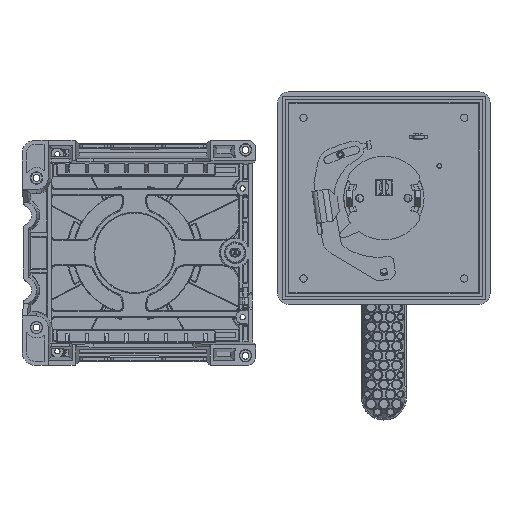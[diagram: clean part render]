
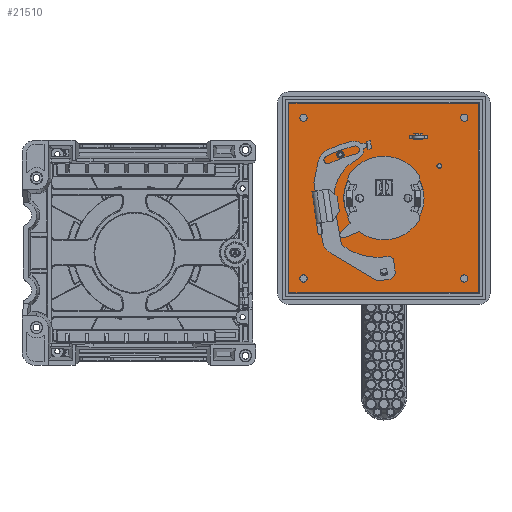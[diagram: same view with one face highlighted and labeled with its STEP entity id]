
A CAD part, front view. The second image highlights one B-rep face of the part: STEP entity #21510.
In plain terms, the highlighted planar face has unit normal (0, -1, 0).
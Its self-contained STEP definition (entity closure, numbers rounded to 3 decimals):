
#12260=LINE('',#104838,#17094);
#12261=LINE('',#104841,#17095);
#12262=LINE('',#104843,#17096);
#12263=LINE('',#104845,#17097);
#12264=LINE('',#104878,#17098);
#12265=LINE('',#104881,#17099);
#12266=LINE('',#104883,#17100);
#12267=LINE('',#104885,#17101);
#12268=LINE('',#104887,#17102);
#12269=LINE('',#104889,#17103);
#12270=LINE('',#104891,#17104);
#12271=LINE('',#104893,#17105);
#12272=LINE('',#104895,#17106);
#12273=LINE('',#104897,#17107);
#12274=LINE('',#104899,#17108);
#12275=LINE('',#104901,#17109);
#17094=VECTOR('',#80921,1.);
#17095=VECTOR('',#80922,1.);
#17096=VECTOR('',#80923,1.);
#17097=VECTOR('',#80924,1.);
#17098=VECTOR('',#80957,1.);
#17099=VECTOR('',#80958,1.);
#17100=VECTOR('',#80959,1.);
#17101=VECTOR('',#80960,1.);
#17102=VECTOR('',#80961,1.);
#17103=VECTOR('',#80962,1.);
#17104=VECTOR('',#80963,1.);
#17105=VECTOR('',#80964,1.);
#17106=VECTOR('',#80965,1.);
#17107=VECTOR('',#80966,1.);
#17108=VECTOR('',#80967,1.);
#17109=VECTOR('',#80968,1.);
#21510=ADVANCED_FACE('',(#26535,#26536,#26537,#26538,#26539,#26540,#26541,
#26542,#26543,#26544),#25336,.F.);
#25336=PLANE('',#72030);
#26535=FACE_BOUND('',#27420,.T.);
#26536=FACE_BOUND('',#27421,.T.);
#26537=FACE_BOUND('',#27422,.T.);
#26538=FACE_BOUND('',#27423,.T.);
#26539=FACE_BOUND('',#27424,.T.);
#26540=FACE_BOUND('',#27425,.T.);
#26541=FACE_BOUND('',#27426,.T.);
#26542=FACE_BOUND('',#27427,.T.);
#26543=FACE_BOUND('',#27428,.T.);
#26544=FACE_BOUND('',#27429,.T.);
#27420=EDGE_LOOP('',(#33959,#33960,#33961,#33962));
#27421=EDGE_LOOP('',(#33963,#33964));
#27422=EDGE_LOOP('',(#33965,#33966));
#27423=EDGE_LOOP('',(#33967,#33968));
#27424=EDGE_LOOP('',(#33969,#33970));
#27425=EDGE_LOOP('',(#33971,#33972));
#27426=EDGE_LOOP('',(#33973,#33974));
#27427=EDGE_LOOP('',(#33975,#33976));
#27428=EDGE_LOOP('',(#33977,#33978));
#27429=EDGE_LOOP('',(#33979,#33980,#33981,#33982,#33983,#33984,#33985,#33986,
#33987,#33988,#33989,#33990));
#33959=ORIENTED_EDGE('',*,*,#59092,.F.);
#33960=ORIENTED_EDGE('',*,*,#59093,.F.);
#33961=ORIENTED_EDGE('',*,*,#59094,.F.);
#33962=ORIENTED_EDGE('',*,*,#59095,.F.);
#33963=ORIENTED_EDGE('',*,*,#59096,.F.);
#33964=ORIENTED_EDGE('',*,*,#59097,.F.);
#33965=ORIENTED_EDGE('',*,*,#59098,.F.);
#33966=ORIENTED_EDGE('',*,*,#59099,.F.);
#33967=ORIENTED_EDGE('',*,*,#59100,.F.);
#33968=ORIENTED_EDGE('',*,*,#59101,.F.);
#33969=ORIENTED_EDGE('',*,*,#59102,.F.);
#33970=ORIENTED_EDGE('',*,*,#59103,.F.);
#33971=ORIENTED_EDGE('',*,*,#59104,.F.);
#33972=ORIENTED_EDGE('',*,*,#59105,.F.);
#33973=ORIENTED_EDGE('',*,*,#59106,.F.);
#33974=ORIENTED_EDGE('',*,*,#59107,.F.);
#33975=ORIENTED_EDGE('',*,*,#59108,.F.);
#33976=ORIENTED_EDGE('',*,*,#59109,.F.);
#33977=ORIENTED_EDGE('',*,*,#59110,.F.);
#33978=ORIENTED_EDGE('',*,*,#59111,.F.);
#33979=ORIENTED_EDGE('',*,*,#59112,.T.);
#33980=ORIENTED_EDGE('',*,*,#59113,.T.);
#33981=ORIENTED_EDGE('',*,*,#59114,.F.);
#33982=ORIENTED_EDGE('',*,*,#59115,.T.);
#33983=ORIENTED_EDGE('',*,*,#59116,.T.);
#33984=ORIENTED_EDGE('',*,*,#59117,.F.);
#33985=ORIENTED_EDGE('',*,*,#59118,.F.);
#33986=ORIENTED_EDGE('',*,*,#59119,.T.);
#33987=ORIENTED_EDGE('',*,*,#59120,.F.);
#33988=ORIENTED_EDGE('',*,*,#59121,.T.);
#33989=ORIENTED_EDGE('',*,*,#59122,.F.);
#33990=ORIENTED_EDGE('',*,*,#59123,.T.);
#52396=VERTEX_POINT('',#104839);
#52397=VERTEX_POINT('',#104840);
#52398=VERTEX_POINT('',#104842);
#52399=VERTEX_POINT('',#104844);
#52400=VERTEX_POINT('',#104847);
#52401=VERTEX_POINT('',#104848);
#52402=VERTEX_POINT('',#104851);
#52403=VERTEX_POINT('',#104852);
#52404=VERTEX_POINT('',#104855);
#52405=VERTEX_POINT('',#104856);
#52406=VERTEX_POINT('',#104859);
#52407=VERTEX_POINT('',#104860);
#52408=VERTEX_POINT('',#104863);
#52409=VERTEX_POINT('',#104864);
#52410=VERTEX_POINT('',#104867);
#52411=VERTEX_POINT('',#104868);
#52412=VERTEX_POINT('',#104871);
#52413=VERTEX_POINT('',#104872);
#52414=VERTEX_POINT('',#104875);
#52415=VERTEX_POINT('',#104876);
#52416=VERTEX_POINT('',#104879);
#52417=VERTEX_POINT('',#104880);
#52418=VERTEX_POINT('',#104882);
#52419=VERTEX_POINT('',#104884);
#52420=VERTEX_POINT('',#104886);
#52421=VERTEX_POINT('',#104888);
#52422=VERTEX_POINT('',#104890);
#52423=VERTEX_POINT('',#104892);
#52424=VERTEX_POINT('',#104894);
#52425=VERTEX_POINT('',#104896);
#52426=VERTEX_POINT('',#104898);
#52427=VERTEX_POINT('',#104900);
#59092=EDGE_CURVE('',#52396,#52397,#12260,.T.);
#59093=EDGE_CURVE('',#52398,#52396,#12261,.T.);
#59094=EDGE_CURVE('',#52399,#52398,#12262,.T.);
#59095=EDGE_CURVE('',#52397,#52399,#12263,.T.);
#59096=EDGE_CURVE('',#52400,#52401,#68127,.T.);
#59097=EDGE_CURVE('',#52401,#52400,#68128,.T.);
#59098=EDGE_CURVE('',#52402,#52403,#68129,.T.);
#59099=EDGE_CURVE('',#52403,#52402,#68130,.T.);
#59100=EDGE_CURVE('',#52404,#52405,#68131,.T.);
#59101=EDGE_CURVE('',#52405,#52404,#68132,.T.);
#59102=EDGE_CURVE('',#52406,#52407,#68133,.T.);
#59103=EDGE_CURVE('',#52407,#52406,#68134,.T.);
#59104=EDGE_CURVE('',#52408,#52409,#68135,.T.);
#59105=EDGE_CURVE('',#52409,#52408,#68136,.T.);
#59106=EDGE_CURVE('',#52410,#52411,#68137,.T.);
#59107=EDGE_CURVE('',#52411,#52410,#68138,.T.);
#59108=EDGE_CURVE('',#52412,#52413,#68139,.T.);
#59109=EDGE_CURVE('',#52413,#52412,#68140,.T.);
#59110=EDGE_CURVE('',#52414,#52415,#68141,.T.);
#59111=EDGE_CURVE('',#52415,#52414,#68142,.T.);
#59112=EDGE_CURVE('',#52416,#52417,#12264,.T.);
#59113=EDGE_CURVE('',#52417,#52418,#12265,.T.);
#59114=EDGE_CURVE('',#52419,#52418,#12266,.T.);
#59115=EDGE_CURVE('',#52419,#52420,#12267,.T.);
#59116=EDGE_CURVE('',#52420,#52421,#12268,.T.);
#59117=EDGE_CURVE('',#52422,#52421,#12269,.T.);
#59118=EDGE_CURVE('',#52423,#52422,#12270,.T.);
#59119=EDGE_CURVE('',#52423,#52424,#12271,.T.);
#59120=EDGE_CURVE('',#52425,#52424,#12272,.T.);
#59121=EDGE_CURVE('',#52425,#52426,#12273,.T.);
#59122=EDGE_CURVE('',#52427,#52426,#12274,.T.);
#59123=EDGE_CURVE('',#52427,#52416,#12275,.T.);
#68127=CIRCLE('',#72014,25.);
#68128=CIRCLE('',#72015,25.);
#68129=CIRCLE('',#72016,2.25);
#68130=CIRCLE('',#72017,2.25);
#68131=CIRCLE('',#72018,2.25);
#68132=CIRCLE('',#72019,2.25);
#68133=CIRCLE('',#72020,2.25);
#68134=CIRCLE('',#72021,2.25);
#68135=CIRCLE('',#72022,2.25);
#68136=CIRCLE('',#72023,2.25);
#68137=CIRCLE('',#72024,3.);
#68138=CIRCLE('',#72025,3.);
#68139=CIRCLE('',#72026,1.5);
#68140=CIRCLE('',#72027,1.5);
#68141=CIRCLE('',#72028,1.5);
#68142=CIRCLE('',#72029,1.5);
#72014=AXIS2_PLACEMENT_3D('',#104846,#80925,#80926);
#72015=AXIS2_PLACEMENT_3D('',#104849,#80927,#80928);
#72016=AXIS2_PLACEMENT_3D('',#104850,#80929,#80930);
#72017=AXIS2_PLACEMENT_3D('',#104853,#80931,#80932);
#72018=AXIS2_PLACEMENT_3D('',#104854,#80933,#80934);
#72019=AXIS2_PLACEMENT_3D('',#104857,#80935,#80936);
#72020=AXIS2_PLACEMENT_3D('',#104858,#80937,#80938);
#72021=AXIS2_PLACEMENT_3D('',#104861,#80939,#80940);
#72022=AXIS2_PLACEMENT_3D('',#104862,#80941,#80942);
#72023=AXIS2_PLACEMENT_3D('',#104865,#80943,#80944);
#72024=AXIS2_PLACEMENT_3D('',#104866,#80945,#80946);
#72025=AXIS2_PLACEMENT_3D('',#104869,#80947,#80948);
#72026=AXIS2_PLACEMENT_3D('',#104870,#80949,#80950);
#72027=AXIS2_PLACEMENT_3D('',#104873,#80951,#80952);
#72028=AXIS2_PLACEMENT_3D('',#104874,#80953,#80954);
#72029=AXIS2_PLACEMENT_3D('',#104877,#80955,#80956);
#72030=AXIS2_PLACEMENT_3D('',#104902,#80969,#80970);
#80921=DIRECTION('',(-1.,0.,0.));
#80922=DIRECTION('',(0.,0.,-1.));
#80923=DIRECTION('',(1.,0.,0.));
#80924=DIRECTION('',(0.,0.,1.));
#80925=DIRECTION('',(0.,-1.,0.));
#80926=DIRECTION('',(-1.,0.,0.));
#80927=DIRECTION('',(0.,-1.,0.));
#80928=DIRECTION('',(1.,0.,0.));
#80929=DIRECTION('',(0.,-1.,0.));
#80930=DIRECTION('',(1.,0.,0.));
#80931=DIRECTION('',(0.,-1.,0.));
#80932=DIRECTION('',(-1.,0.,0.));
#80933=DIRECTION('',(0.,-1.,0.));
#80934=DIRECTION('',(-1.,0.,0.));
#80935=DIRECTION('',(0.,-1.,0.));
#80936=DIRECTION('',(1.,0.,0.));
#80937=DIRECTION('',(0.,-1.,0.));
#80938=DIRECTION('',(-1.,0.,0.));
#80939=DIRECTION('',(0.,-1.,0.));
#80940=DIRECTION('',(1.,0.,0.));
#80941=DIRECTION('',(0.,-1.,0.));
#80942=DIRECTION('',(1.,0.,0.));
#80943=DIRECTION('',(0.,-1.,0.));
#80944=DIRECTION('',(-1.,0.,0.));
#80945=DIRECTION('',(0.,-1.,0.));
#80946=DIRECTION('',(-1.,0.,0.));
#80947=DIRECTION('',(0.,-1.,0.));
#80948=DIRECTION('',(1.,0.,0.));
#80949=DIRECTION('',(0.,-1.,0.));
#80950=DIRECTION('',(-1.,0.,0.));
#80951=DIRECTION('',(0.,-1.,0.));
#80952=DIRECTION('',(1.,0.,0.));
#80953=DIRECTION('',(0.,-1.,0.));
#80954=DIRECTION('',(-1.,0.,0.));
#80955=DIRECTION('',(0.,-1.,0.));
#80956=DIRECTION('',(1.,0.,0.));
#80957=DIRECTION('',(0.,0.,1.));
#80958=DIRECTION('',(-1.,0.,0.));
#80959=DIRECTION('',(0.,0.,-1.));
#80960=DIRECTION('',(1.,0.,0.));
#80961=DIRECTION('',(0.,0.,1.));
#80962=DIRECTION('',(-1.,0.,0.));
#80963=DIRECTION('',(0.,0.,1.));
#80964=DIRECTION('',(1.,0.,0.));
#80965=DIRECTION('',(0.,0.,1.));
#80966=DIRECTION('',(-1.,0.,0.));
#80967=DIRECTION('',(0.,0.,1.));
#80968=DIRECTION('',(-1.,0.,0.));
#80969=DIRECTION('',(0.,1.,0.));
#80970=DIRECTION('',(-1.,0.,0.));
#104838=CARTESIAN_POINT('',(59.,0.,-59.));
#104839=CARTESIAN_POINT('',(59.,0.,-59.));
#104840=CARTESIAN_POINT('',(-59.,0.,-59.));
#104841=CARTESIAN_POINT('',(59.,0.,59.));
#104842=CARTESIAN_POINT('',(59.,0.,59.));
#104843=CARTESIAN_POINT('',(-59.,0.,59.));
#104844=CARTESIAN_POINT('',(-59.,0.,59.));
#104845=CARTESIAN_POINT('',(-59.,0.,-59.));
#104846=CARTESIAN_POINT('',(0.,0.,0.));
#104847=CARTESIAN_POINT('',(-25.,0.,0.));
#104848=CARTESIAN_POINT('',(25.,0.,0.));
#104849=CARTESIAN_POINT('',(0.,0.,0.));
#104850=CARTESIAN_POINT('',(-50.,0.,50.));
#104851=CARTESIAN_POINT('',(-47.75,0.,50.));
#104852=CARTESIAN_POINT('',(-52.25,0.,50.));
#104853=CARTESIAN_POINT('',(-50.,0.,50.));
#104854=CARTESIAN_POINT('',(-50.,0.,-50.));
#104855=CARTESIAN_POINT('',(-52.25,0.,-50.));
#104856=CARTESIAN_POINT('',(-47.75,0.,-50.));
#104857=CARTESIAN_POINT('',(-50.,0.,-50.));
#104858=CARTESIAN_POINT('',(50.,0.,-50.));
#104859=CARTESIAN_POINT('',(47.75,0.,-50.));
#104860=CARTESIAN_POINT('',(52.25,0.,-50.));
#104861=CARTESIAN_POINT('',(50.,0.,-50.));
#104862=CARTESIAN_POINT('',(50.,0.,50.));
#104863=CARTESIAN_POINT('',(52.25,0.,50.));
#104864=CARTESIAN_POINT('',(47.75,0.,50.));
#104865=CARTESIAN_POINT('',(50.,0.,50.));
#104866=CARTESIAN_POINT('',(0.,0.,-46.));
#104867=CARTESIAN_POINT('',(-3.,0.,-46.));
#104868=CARTESIAN_POINT('',(3.,0.,-46.));
#104869=CARTESIAN_POINT('',(0.,0.,-46.));
#104870=CARTESIAN_POINT('',(34.5,0.,20.));
#104871=CARTESIAN_POINT('',(33.,0.,20.));
#104872=CARTESIAN_POINT('',(36.,0.,20.));
#104873=CARTESIAN_POINT('',(34.5,0.,20.));
#104874=CARTESIAN_POINT('',(-27.,0.,27.));
#104875=CARTESIAN_POINT('',(-28.5,0.,27.));
#104876=CARTESIAN_POINT('',(-25.5,0.,27.));
#104877=CARTESIAN_POINT('',(-27.,0.,27.));
#104878=CARTESIAN_POINT('',(19.102,0.,36.4));
#104879=CARTESIAN_POINT('',(19.102,0.,36.4));
#104880=CARTESIAN_POINT('',(19.102,0.,37.));
#104881=CARTESIAN_POINT('',(19.102,0.,37.));
#104882=CARTESIAN_POINT('',(16.109,0.,37.));
#104883=CARTESIAN_POINT('',(16.109,0.,39.));
#104884=CARTESIAN_POINT('',(16.109,0.,39.));
#104885=CARTESIAN_POINT('',(16.109,0.,39.));
#104886=CARTESIAN_POINT('',(19.102,0.,39.));
#104887=CARTESIAN_POINT('',(19.102,0.,39.));
#104888=CARTESIAN_POINT('',(19.102,0.,40.));
#104889=CARTESIAN_POINT('',(23.898,0.,40.));
#104890=CARTESIAN_POINT('',(23.898,0.,40.));
#104891=CARTESIAN_POINT('',(23.898,0.,39.));
#104892=CARTESIAN_POINT('',(23.898,0.,39.));
#104893=CARTESIAN_POINT('',(23.898,0.,39.));
#104894=CARTESIAN_POINT('',(26.891,0.,39.));
#104895=CARTESIAN_POINT('',(26.891,0.,37.));
#104896=CARTESIAN_POINT('',(26.891,0.,37.));
#104897=CARTESIAN_POINT('',(26.891,0.,37.));
#104898=CARTESIAN_POINT('',(23.898,0.,37.));
#104899=CARTESIAN_POINT('',(23.898,0.,36.4));
#104900=CARTESIAN_POINT('',(23.898,0.,36.4));
#104901=CARTESIAN_POINT('',(23.898,0.,36.4));
#104902=CARTESIAN_POINT('',(0.,0.,0.));
